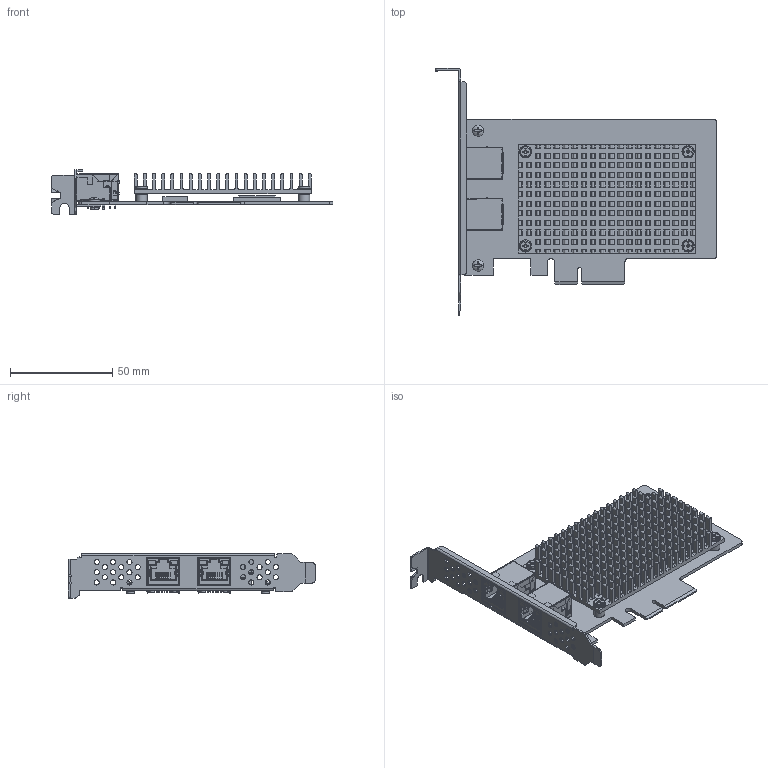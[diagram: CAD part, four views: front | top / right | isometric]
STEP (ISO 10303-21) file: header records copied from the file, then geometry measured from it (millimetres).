
FILE_DESCRIPTION((''),'2;1');
FILE_NAME('HR-PCB-0476-00_1','2025-04-22T17:29:54',('19499'),(''),'CREO PARAMETRIC BY PTC INC, 2020184','CREO PARAMETRIC BY PTC INC, 2020184','');
FILE_SCHEMA(('CONFIG_CONTROL_DESIGN','SHAPE_APPEARANCE_LAYERS_GROUPS'));
Products named in the file (1): HR-PCB-0476-00_1
Bounding box: 137.59 x 120.78 x 21.59 mm (x, y, z)
Volume: 40079 mm3; surface area: 60245 mm2
Topology: 2 solids, 32 shells, 5319 faces, 14961 edges, 9874 vertices
Faces by surface type: plane 3392, cylinder 1631, bspline 124, sphere 72, torus 64, cone 36
Entity records: 220729 total; most frequent: CARTESIAN_POINT 34995, ORIENTED_EDGE 29798, DIRECTION 28917, PRESENTATION_STYLE_ASSIGNMENT 14948, STYLED_ITEM 14901, CURVE_STYLE 14899, EDGE_CURVE 14899, VECTOR 10709
